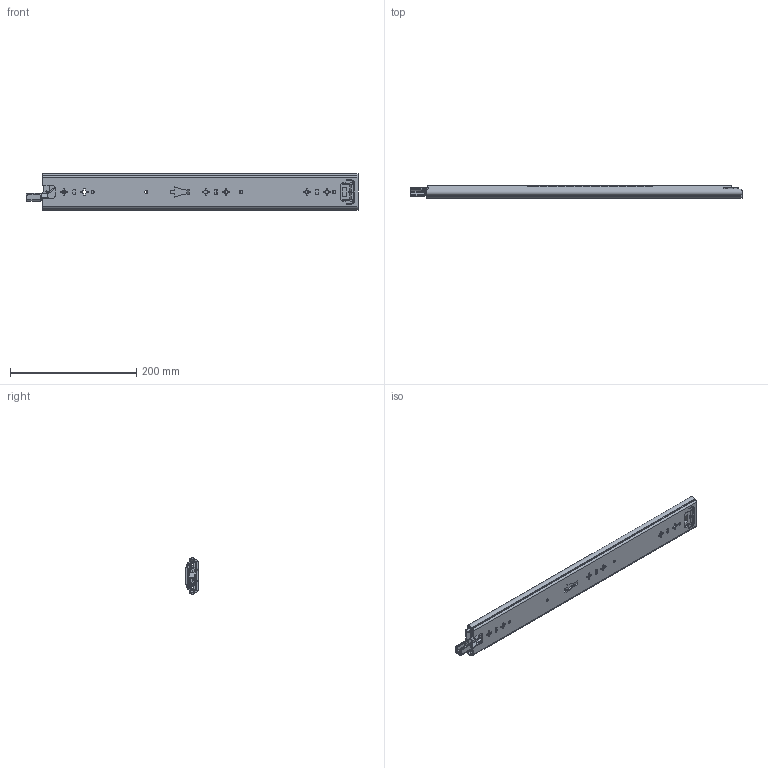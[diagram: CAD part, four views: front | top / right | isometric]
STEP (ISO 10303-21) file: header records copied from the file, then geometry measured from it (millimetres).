
FILE_DESCRIPTION((''),'2;1');
FILE_NAME('KP-57-01ZUZHUANGTU-20_ASM','2023-03-30T',('jishu015'),(''),'PRO/ENGINEER BY PARAMETRIC TECHNOLOGY CORPORATION, 2010280','PRO/ENGINEER BY PARAMETRIC TECHNOLOGY CORPORATION, 2010280','');
FILE_SCHEMA(('CONFIG_CONTROL_DESIGN'));
Length unit declared in the file: millimetre
Products named in the file (22): KP-57-01WEIKE-20; 1057WEIJIAO________________; WAIKE_______________ASM; KP-57-01ZHONGGUI-26___; ZHONGGUIPEIJIAN-20; ZHONGGUISUOKOU-11______________; KP-57-01ZHONGGUI-26____ASM; 1057XIAOZHUJIA________________; 1057-5-6GANZHU________________; 1057XIAOZHUJIA-14GE26____ASM; KP-57-01NEIGUI-22_; PJ-57-08______________; DIAOPIAN-11______________; 50XINSUOKOU-1______________; TANHUANG______________; 1053-3SBANJI122____________; JIAO11____________; KP-57-01NEIGUI-22__ASM; 1053ZHUTIAO-275___; 53-5-6GANZHU1; 1053ZHUTIAO-175MM_______________ASM; KP-57-01ZUZHUANGTU-20_ASM
Assembly tree (60 placements, depth 3):
  KP-57-01ZUZHUANGTU-20_ASM
    WAIKE_______________ASM
      KP-57-01WEIKE-20
      1057WEIJIAO________________
    KP-57-01ZHONGGUI-26____ASM
      KP-57-01ZHONGGUI-26___
      ZHONGGUIPEIJIAN-20
      ZHONGGUISUOKOU-11______________
    1057XIAOZHUJIA-14GE26____ASM
      1057XIAOZHUJIA________________
      1057-5-6GANZHU________________  x32
    KP-57-01NEIGUI-22__ASM
      KP-57-01NEIGUI-22_
      PJ-57-08______________
      DIAOPIAN-11______________
      50XINSUOKOU-1______________
      TANHUANG______________
      1053-3SBANJI122____________
      JIAO11____________
    1053ZHUTIAO-175MM_______________ASM  x2
      1053ZHUTIAO-275___
      53-5-6GANZHU1
Bounding box: 525.42 x 19 x 57.67 mm (x, y, z)
Volume: 218154.2 mm3; surface area: 236716.4 mm2
Topology: 65 solids, 65 shells, 1904 faces, 5435 edges, 3412 vertices
Faces by surface type: plane 805, cylinder 794, sphere 107, bspline 90, cone 60, torus 25, extrusion 23
Entity records: 62892 total; most frequent: CARTESIAN_POINT 15880, ORIENTED_EDGE 9946, DIRECTION 9650, EDGE_CURVE 4973, AXIS2_PLACEMENT_3D 3330, VERTEX_POINT 3208, VECTOR 2990, LINE 2967
